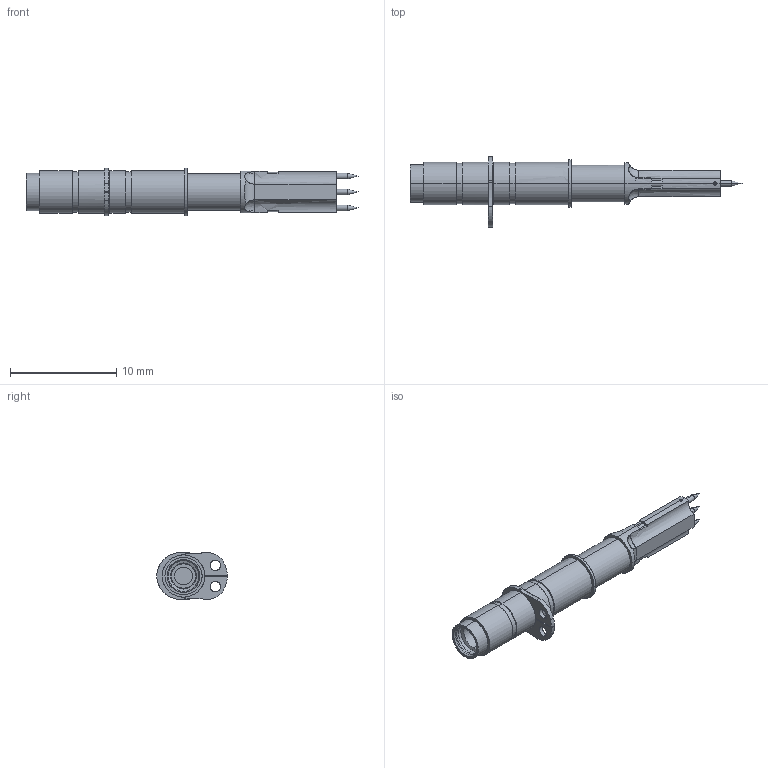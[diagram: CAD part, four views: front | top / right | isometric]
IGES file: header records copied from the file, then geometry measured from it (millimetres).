
Start section: SolidWorks IGES file using analytic representation for surfaces
Global section: file name: Y:\HomeCPG\probe solid model mockups\Solidworks models\Non-catalog IGES files\CSP-40B-012 IGES files\CSP-40B-012.IGS; native system: SolidWorks 2006 by SolidWorks Corporation; preprocessor: SolidWorks 2006 by SolidWorks Corporation; author: tsakatani; date: 080129.133546; units: inch
Bounding box: 31.27 x 6.63 x 4.5 mm (x, y, z)
Surface area: 686.8 mm2 (no closed solid volume)
Topology: 0 solids, 0 shells, 178 faces, 2261 edges, 2255 vertices
Faces by surface type: revolution 117, bspline 61
